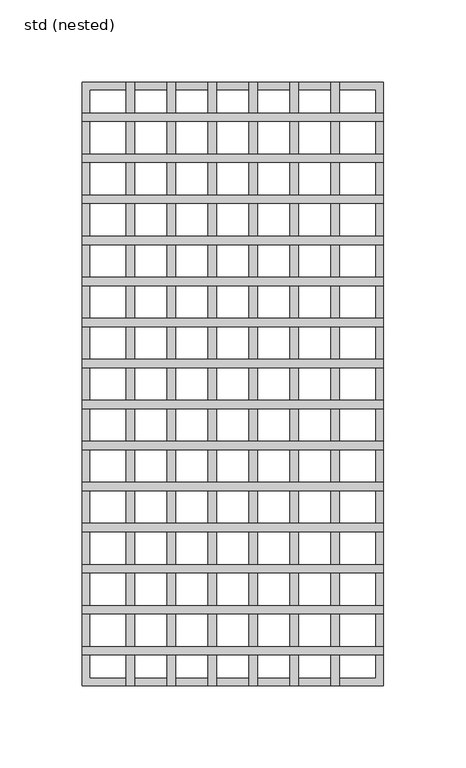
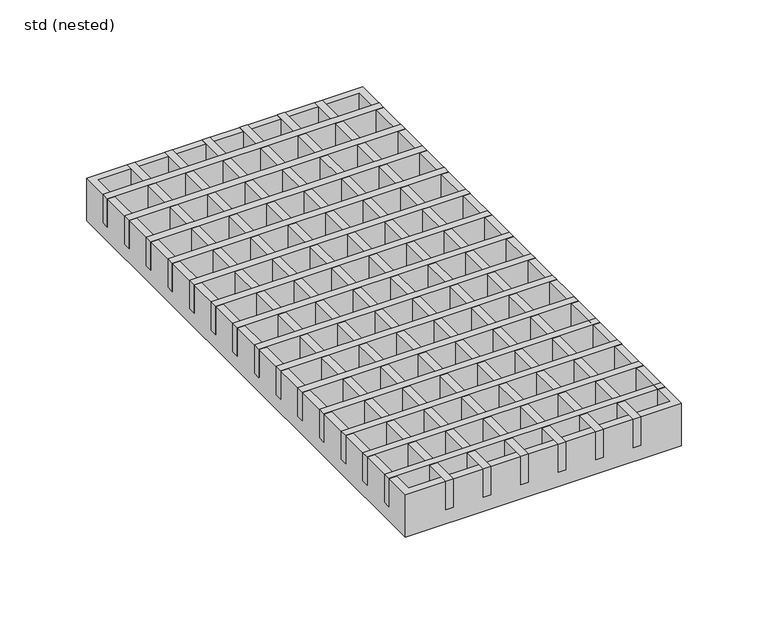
"""IFC4 building model written with IfcOpenShell, lengths in millimetres: sanitary terminal geometry, ZZZ_do not use_PF_ST_UN_grating for high capacity gully_ACO : std (nested)."""

from ifc_helpers import new_model, si_unit, frame, origin, place, context, project, spatial, polyline, outline, extrude, source, transform, mapped, element, save


def std_nested_2d5d525a(model_context):
    return source(origin(), model_context, "Body", "SweptSolid", [
        extrude(outline(polyline([(92.0, 165.0), (92.0, 160.0), (-92.0, 160.0), (-92.0, 165.0), (92.0, 165.0)])), frame((0.0, 0.0, -20.0), z_axis=(0.0, 0.0, 1.0), x_axis=(1.0, 0.0, 0.0)), (0.0, 0.0, 1.0), 20.0),
        extrude(outline(polyline([(92.0, 140.0), (92.0, 135.0), (-92.0, 135.0), (-92.0, 140.0), (92.0, 140.0)])), frame((0.0, 0.0, -20.0), z_axis=(0.0, 0.0, 1.0), x_axis=(1.0, 0.0, 0.0)), (0.0, 0.0, 1.0), 20.0),
        extrude(outline(polyline([(92.0, 115.0), (92.0, 110.0), (-92.0, 110.0), (-92.0, 115.0), (92.0, 115.0)])), frame((0.0, 0.0, -20.0), z_axis=(0.0, 0.0, 1.0), x_axis=(1.0, 0.0, 0.0)), (0.0, 0.0, 1.0), 20.0),
        extrude(outline(polyline([(92.0, 90.0), (92.0, 85.0), (-92.0, 85.0), (-92.0, 90.0), (92.0, 90.0)])), frame((0.0, 0.0, -20.0), z_axis=(0.0, 0.0, 1.0), x_axis=(1.0, 0.0, 0.0)), (0.0, 0.0, 1.0), 20.0),
        extrude(outline(polyline([(92.0, 65.0), (92.0, 60.0), (-92.0, 60.0), (-92.0, 65.0), (92.0, 65.0)])), frame((0.0, 0.0, -20.0), z_axis=(0.0, 0.0, 1.0), x_axis=(1.0, 0.0, 0.0)), (0.0, 0.0, 1.0), 20.0),
        extrude(outline(polyline([(92.0, 40.0), (92.0, 35.0), (-92.0, 35.0), (-92.0, 40.0), (92.0, 40.0)])), frame((0.0, 0.0, -20.0), z_axis=(0.0, 0.0, 1.0), x_axis=(1.0, 0.0, 0.0)), (0.0, 0.0, 1.0), 20.0),
        extrude(outline(polyline([(92.0, -165.0), (-92.0, -165.0), (-92.0, -160.0), (92.0, -160.0), (92.0, -165.0)])), frame((0.0, 0.0, -20.0), z_axis=(0.0, 0.0, 1.0), x_axis=(1.0, 0.0, 0.0)), (0.0, 0.0, 1.0), 20.0),
        extrude(outline(polyline([(92.0, -140.0), (-92.0, -140.0), (-92.0, -135.0), (92.0, -135.0), (92.0, -140.0)])), frame((0.0, 0.0, -20.0), z_axis=(0.0, 0.0, 1.0), x_axis=(1.0, 0.0, 0.0)), (0.0, 0.0, 1.0), 20.0),
        extrude(outline(polyline([(92.0, -115.0), (-92.0, -115.0), (-92.0, -110.0), (92.0, -110.0), (92.0, -115.0)])), frame((0.0, 0.0, -20.0), z_axis=(0.0, 0.0, 1.0), x_axis=(1.0, 0.0, 0.0)), (0.0, 0.0, 1.0), 20.0),
        extrude(outline(polyline([(92.0, -90.0), (-92.0, -90.0), (-92.0, -85.0), (92.0, -85.0), (92.0, -90.0)])), frame((0.0, 0.0, -20.0), z_axis=(0.0, 0.0, 1.0), x_axis=(1.0, 0.0, 0.0)), (0.0, 0.0, 1.0), 20.0),
        extrude(outline(polyline([(92.0, -65.0), (-92.0, -65.0), (-92.0, -60.0), (92.0, -60.0), (92.0, -65.0)])), frame((0.0, 0.0, -20.0), z_axis=(0.0, 0.0, 1.0), x_axis=(1.0, 0.0, 0.0)), (0.0, 0.0, 1.0), 20.0),
        extrude(outline(polyline([(92.0, -40.0), (-92.0, -40.0), (-92.0, -35.0), (92.0, -35.0), (92.0, -40.0)])), frame((0.0, 0.0, -20.0), z_axis=(0.0, 0.0, 1.0), x_axis=(1.0, 0.0, 0.0)), (0.0, 0.0, 1.0), 20.0),
        extrude(outline(polyline([(92.0, -15.0), (-92.0, -15.0), (-92.0, -10.0), (92.0, -10.0), (92.0, -15.0)])), frame((0.0, 0.0, -20.0), z_axis=(0.0, 0.0, 1.0), x_axis=(1.0, 0.0, 0.0)), (0.0, 0.0, 1.0), 20.0),
        extrude(outline(polyline([(92.0, 15.0), (92.0, 10.0), (-92.0, 10.0), (-92.0, 15.0), (92.0, 15.0)])), frame((0.0, 0.0, -20.0), z_axis=(0.0, 0.0, 1.0), x_axis=(1.0, 0.0, 0.0)), (0.0, 0.0, 1.0), 20.0),
        extrude(outline(polyline([(-65.0, -184.0), (-65.0, 184.0), (-60.0, 184.0), (-60.0, -184.0), (-65.0, -184.0)])), frame((0.0, 0.0, -20.0), z_axis=(0.0, 0.0, 1.0), x_axis=(1.0, 0.0, 0.0)), (0.0, 0.0, 1.0), 20.0),
        extrude(outline(polyline([(-40.0, -184.0), (-40.0, 184.0), (-35.0, 184.0), (-35.0, -184.0), (-40.0, -184.0)])), frame((0.0, 0.0, -20.0), z_axis=(0.0, 0.0, 1.0), x_axis=(1.0, 0.0, 0.0)), (0.0, 0.0, 1.0), 20.0),
        extrude(outline(polyline([(65.0, -184.0), (60.0, -184.0), (60.0, 184.0), (65.0, 184.0), (65.0, -184.0)])), frame((0.0, 0.0, -20.0), z_axis=(0.0, 0.0, 1.0), x_axis=(1.0, 0.0, 0.0)), (0.0, 0.0, 1.0), 20.0),
        extrude(outline(polyline([(40.0, -184.0), (35.0, -184.0), (35.0, 184.0), (40.0, 184.0), (40.0, -184.0)])), frame((0.0, 0.0, -20.0), z_axis=(0.0, 0.0, 1.0), x_axis=(1.0, 0.0, 0.0)), (0.0, 0.0, 1.0), 20.0),
        extrude(outline(polyline([(-15.0, -184.0), (-15.0, 184.0), (-10.0, 184.0), (-10.0, -184.0), (-15.0, -184.0)])), frame((0.0, 0.0, -20.0), z_axis=(0.0, 0.0, 1.0), x_axis=(1.0, 0.0, 0.0)), (0.0, 0.0, 1.0), 20.0),
        extrude(outline(polyline([(15.0, -184.0), (10.0, -184.0), (10.0, 184.0), (15.0, 184.0), (15.0, -184.0)])), frame((0.0, 0.0, -20.0), z_axis=(0.0, 0.0, 1.0), x_axis=(1.0, 0.0, 0.0)), (0.0, 0.0, 1.0), 20.0),
        extrude(outline(polyline([(92.0, -184.0), (-92.0, -184.0), (-92.0, 184.0), (92.0, 184.0), (92.0, -184.0)]), holes=[polyline([(87.0, -179.0), (87.0, 179.0), (-87.0, 179.0), (-87.0, -179.0), (87.0, -179.0)])]), frame((0.0, 0.0, -30.0), z_axis=(0.0, 0.0, 1.0), x_axis=(1.0, 0.0, 0.0)), (0.0, 0.0, 1.0), 30.0),
    ])


if __name__ == "__main__":
    model = new_model("IFC4")
    model_context = context("Model", 3, world=origin())
    ifc_project = project(units=[si_unit("LENGTHUNIT", "METRE", prefix="MILLI")], contexts=[model_context])
    site = spatial("IfcSite", under=ifc_project)
    building = spatial("IfcBuilding", under=site)
    placement = place(None, origin())
    std_nested_shape = std_nested_2d5d525a(model_context)
    element("IfcSanitaryTerminal", 1, ObjectType="ZZZ_do not use_PF_ST_UN_grating for high capacity gully_ACO : std (nested)", at=placement, inside=building, context=model_context, shape_type="MappedRepresentation", body=[
        mapped(std_nested_shape, transform((0.0, 0.0, 0.0), x_axis=(1.0, 0.0, 0.0), y_axis=(0.0, 1.0, 0.0), z_axis=(0.0, 0.0, 1.0))),
    ])
    save(model, "model.ifc")
